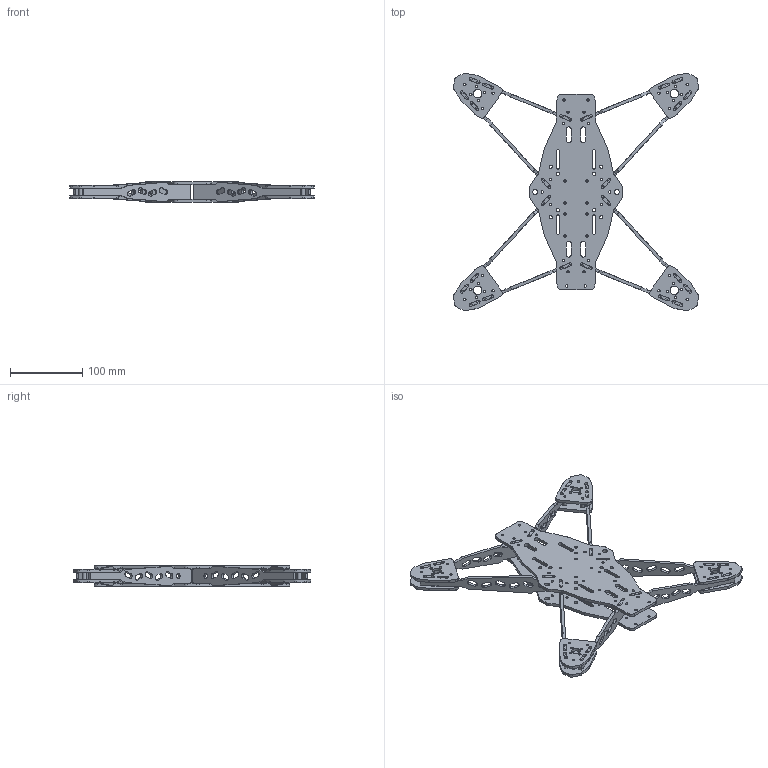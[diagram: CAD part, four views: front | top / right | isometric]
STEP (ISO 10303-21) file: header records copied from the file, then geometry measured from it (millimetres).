
FILE_DESCRIPTION(('FreeCAD Model'),'2;1');
FILE_NAME('Open CASCADE Shape Model','2026-10-17T00:52:02',(''),(''), 'Open CASCADE STEP processor 7.8','FreeCAD','Unknown');
FILE_SCHEMA(('AUTOMOTIVE_DESIGN { 1 0 10303 214 1 1 1 1 }'));
Length unit declared in the file: millimetre
Products named in the file (35): Export_Chassis_Complet; Platine_inferieure; Platine_superieure; Bras_Court_G_AR; Bras_Long_G_AR; Support_moteur_Bas_G_AR; Support_moteur_Haut_G_AR; Bras_Court_G_AV; Bras_Long_G_AV; Support_moteur_Bas_G_AV; Support_moteur_Haut_G_AV; Bras_Court_D_AR; Bras_Long_D_AR; Support_moteur_Bas_D_AR; Support_moteur_Haut_D_AR; Bras_Court_D_AV; Bras_Long_D_AV; Support_moteur_Bas_D_AV; Support_moteur_Haut_D_AV; Entretoise_M3_10_G_AR; Entretoise_M3_10_G_AR001; Entretoise_M3_10_G_AR002; Entretoise_M3_10_G_AV; Entretoise_M3_10_G_AV001; Entretoise_M3_10_G_AV002; Entretoise_M3_10_D_AR; Entretoise_M3_10_D_AR001; Entretoise_M3_10_D_AR002; Entretoise_M3_10_D_AV; Entretoise_M3_10_D_AV001; Entretoise_M3_10_D_AV002; Entretoise_M3_20; Entretoise_M3_001; Entretoise_M3_002; Entretoise_M3_003
Assembly tree (34 placements, depth 2):
  Export_Chassis_Complet
    Platine_inferieure
    Platine_superieure
    Bras_Court_G_AR
    Bras_Long_G_AR
    Support_moteur_Bas_G_AR
    Support_moteur_Haut_G_AR
    Bras_Court_G_AV
    Bras_Long_G_AV
    Support_moteur_Bas_G_AV
    Support_moteur_Haut_G_AV
    Bras_Court_D_AR
    Bras_Long_D_AR
    Support_moteur_Bas_D_AR
    Support_moteur_Haut_D_AR
    Bras_Court_D_AV
    Bras_Long_D_AV
    Support_moteur_Bas_D_AV
    Support_moteur_Haut_D_AV
    Entretoise_M3_10_G_AR
    Entretoise_M3_10_G_AR001
    Entretoise_M3_10_G_AR002
    Entretoise_M3_10_G_AV
    Entretoise_M3_10_G_AV001
    Entretoise_M3_10_G_AV002
    Entretoise_M3_10_D_AR
    Entretoise_M3_10_D_AR001
    Entretoise_M3_10_D_AR002
    Entretoise_M3_10_D_AV
    Entretoise_M3_10_D_AV001
    Entretoise_M3_10_D_AV002
    Entretoise_M3_20
    Entretoise_M3_001
    Entretoise_M3_002
    Entretoise_M3_003
Bounding box: 338.59 x 328.33 x 28 mm (x, y, z)
Volume: 324301.3 mm3; surface area: 214572.9 mm2
Topology: 34 solids, 34 shells, 1440 faces, 4116 edges, 2744 vertices
Faces by surface type: cylinder 772, plane 668
Full cylindrical faces by diameter (mm): 3.3 x124, 4.5 x16, 5.5 x12, 6 x4, 6.5 x8, 12 x8
Entity records: 49084 total; most frequent: DIRECTION 8610, CARTESIAN_POINT 8335, ORIENTED_EDGE 8232, EDGE_CURVE 4116, AXIS2_PLACEMENT_3D 3019, VERTEX_POINT 2744, LINE 2572, VECTOR 2572
